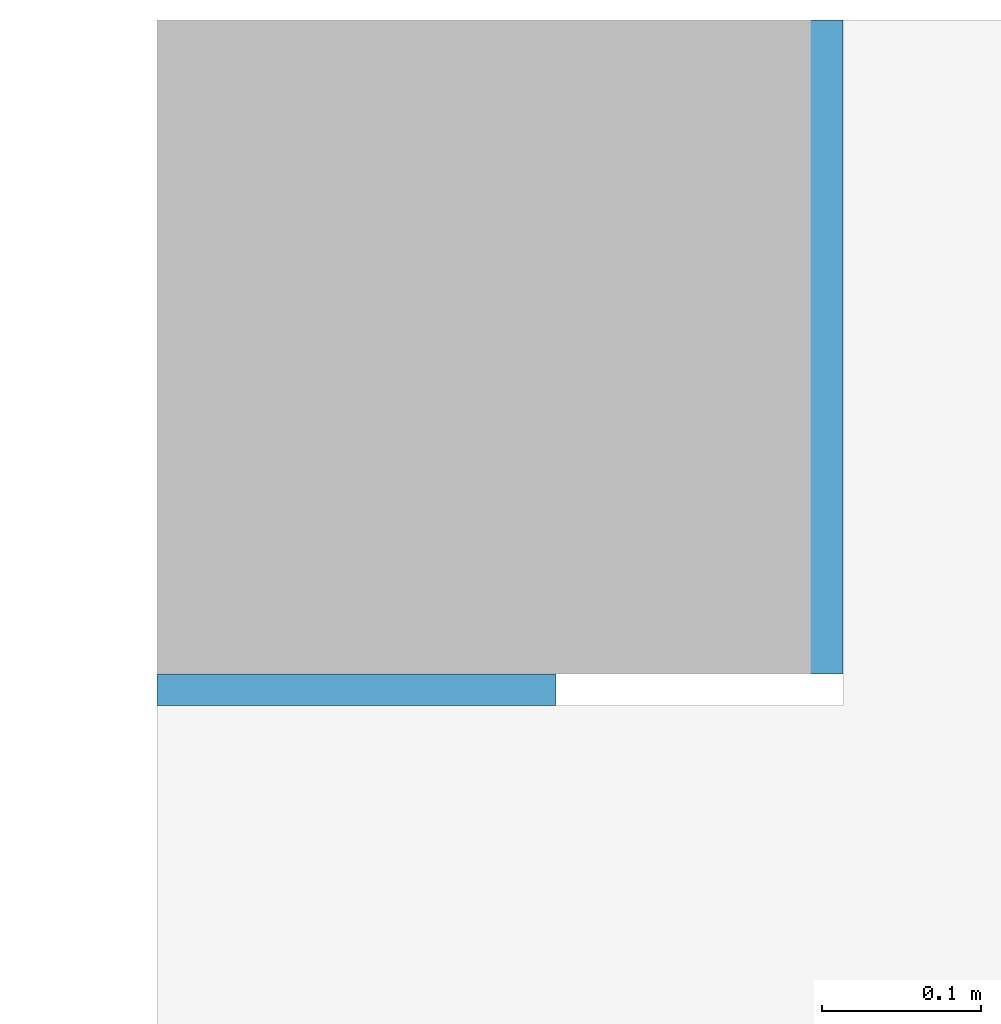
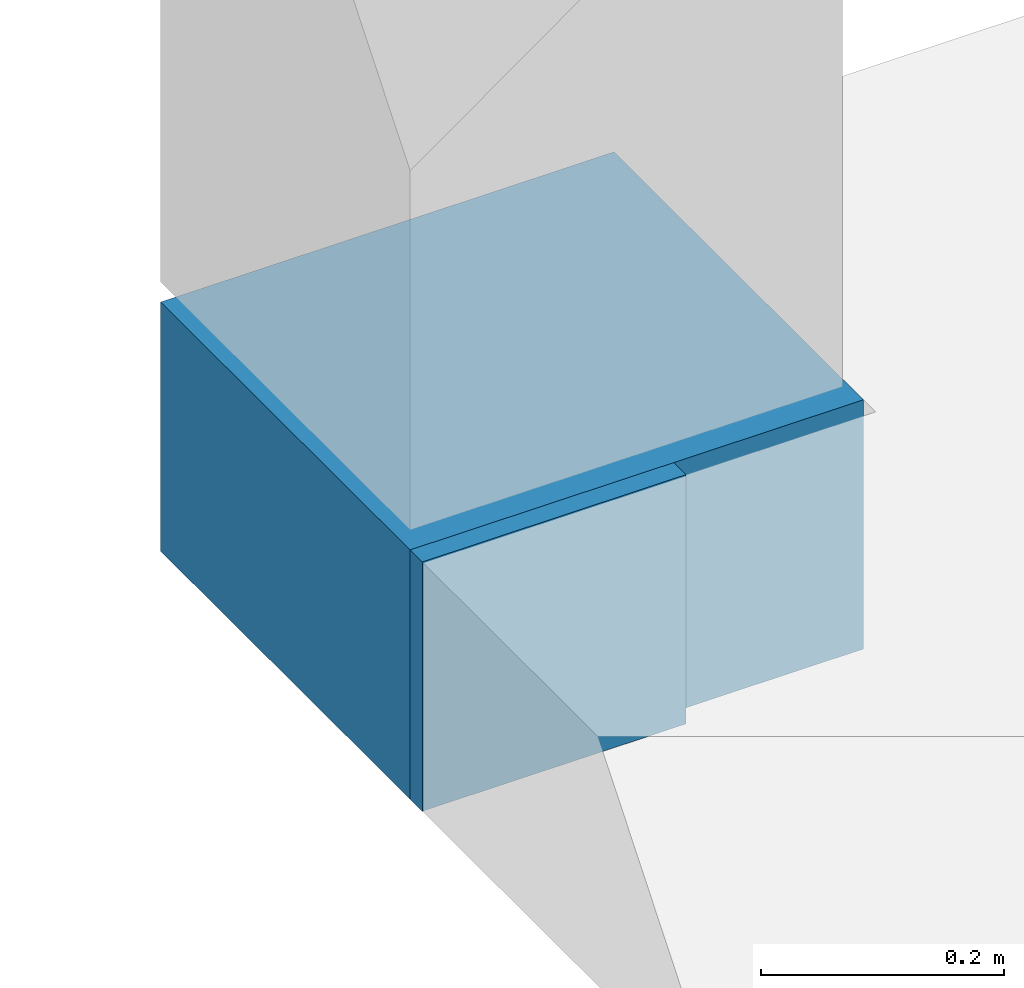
# One storey, part 6 of 14: 2 slabs.
"""IFC2X3 building model written with IfcOpenShell, lengths in millimetres."""

from ifc_helpers import new_model, entity, si_unit, converted_unit, derived_unit, direction, frame, frame_2d, origin, origin_2d_with_axis, place, context, subcontext, project, spatial, rectangle, extrude, material, layer, layer_set, layer_usage, element, save


model = new_model("IFC2X3")

# Units and contexts
model_context = context("Model", 3, precision=0.01, world=origin(), true_north=direction((6.12303176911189e-17, 1.0)))
body_context = subcontext(model_context, "Body", "Model", "MODEL_VIEW")
ifc_project = project(units=[si_unit("LENGTHUNIT", "METRE", prefix="MILLI"), si_unit("AREAUNIT", "SQUARE_METRE"), si_unit("VOLUMEUNIT", "CUBIC_METRE"), converted_unit("PLANEANGLEUNIT", "DEGREE", entity("IfcRatioMeasure", 0.0174532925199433), si_unit("PLANEANGLEUNIT", "RADIAN"), dimensions=[0, 0, 0, 0, 0, 0, 0]), si_unit("MASSUNIT", "GRAM", prefix="KILO"), derived_unit("MASSDENSITYUNIT", [(si_unit("MASSUNIT", "GRAM", prefix="KILO"), 1), (si_unit("LENGTHUNIT", "METRE"), -3)]), si_unit("TIMEUNIT", "SECOND"), si_unit("FREQUENCYUNIT", "HERTZ"), si_unit("THERMODYNAMICTEMPERATUREUNIT", "DEGREE_CELSIUS"), derived_unit("THERMALTRANSMITTANCEUNIT", [(si_unit("MASSUNIT", "GRAM", prefix="KILO"), 1), (si_unit("THERMODYNAMICTEMPERATUREUNIT", "KELVIN"), -1), (si_unit("TIMEUNIT", "SECOND"), -3)]), derived_unit("VOLUMETRICFLOWRATEUNIT", [(si_unit("LENGTHUNIT", "METRE"), 3), (si_unit("TIMEUNIT", "SECOND"), -1)]), si_unit("ELECTRICCURRENTUNIT", "AMPERE"), si_unit("ELECTRICVOLTAGEUNIT", "VOLT"), si_unit("POWERUNIT", "WATT"), si_unit("FORCEUNIT", "NEWTON", prefix="KILO"), si_unit("ILLUMINANCEUNIT", "LUX"), si_unit("LUMINOUSFLUXUNIT", "LUMEN"), si_unit("LUMINOUSINTENSITYUNIT", "CANDELA"), derived_unit("USERDEFINED", [(si_unit("MASSUNIT", "GRAM", prefix="KILO"), -1), (si_unit("LENGTHUNIT", "METRE"), -2), (si_unit("TIMEUNIT", "SECOND"), 3), (si_unit("LUMINOUSFLUXUNIT", "LUMEN"), 1)]), derived_unit("LINEARVELOCITYUNIT", [(si_unit("LENGTHUNIT", "METRE"), 1), (si_unit("TIMEUNIT", "SECOND"), -1)]), si_unit("PRESSUREUNIT", "PASCAL"), derived_unit("USERDEFINED", [(si_unit("LENGTHUNIT", "METRE"), -2), (si_unit("MASSUNIT", "GRAM", prefix="KILO"), 1), (si_unit("TIMEUNIT", "SECOND"), -2)])], contexts=[model_context])

# Site, building, storey
site_placement = place(None, origin())
site = spatial("IfcSite", under=ifc_project, at=site_placement, Name="Default", CompositionType="ELEMENT")
building_placement = place(site_placement, origin())
building = spatial("IfcBuilding", under=site, at=building_placement, Name="niet gebruiken", CompositionType="ELEMENT")
storey_placement = place(building_placement, frame((0.0, 0.0, 15570.0)))
storey = spatial("IfcBuildingStorey", under=building, at=storey_placement, Name="05 vijfde verdieping", CompositionType="ELEMENT", Elevation=15570.0)

# Slabs
ifc_material = material(Name="NLRS_f2_beton ihwg")
ifc_layer = layer(ifc_material, 250.0)
ifc_layer_set = layer_set([ifc_layer], Name="Floor:NLRS_23.21_FL_beton ihwg d=250_gen")
ifc_layer_usage_1 = layer_usage(ifc_layer_set, "AXIS3", "POSITIVE", 0.0)
slab_1_placement = place(storey_placement, origin())
element("IfcSlab", 1, at=slab_1_placement, inside=storey, material=ifc_layer_usage_1, Name="Floor:NLRS_23.21_FL_beton ihwg d=250_gen", ObjectType="Floor:NLRS_23.21_FL_beton ihwg d=250_gen", PredefinedType="FLOOR", context=body_context, shape_type="SweptSolid", body=[
    extrude(rectangle(XDim=20.0000000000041, YDim=249.999999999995, at=frame_2d((-4.33164615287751e-12, 0.0), x_axis=(1.0, 0.0))), frame((32425.0, 52836.0, -90.0), z_axis=(0.0, 0.0, -1.0), x_axis=(0.0, 1.0, 0.0)), (0.0, 0.0, 1.0), 249.999999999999),
])
ifc_layer_usage_2 = layer_usage(ifc_layer_set, "AXIS3", "POSITIVE", 0.0)
slab_2_placement = place(storey_placement, origin())
element("IfcSlab", 2, at=slab_2_placement, inside=storey, material=ifc_layer_usage_2, Name="Floor:NLRS_23.21_FL_beton ihwg d=250_gen", ObjectType="Floor:NLRS_23.21_FL_beton ihwg d=250_gen", PredefinedType="FLOOR", context=body_context, shape_type="SweptSolid", body=[
    extrude(rectangle(XDim=409.999999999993, YDim=430.000032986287, at=origin_2d_with_axis()), frame((32515.0, 53051.0, -90.0), z_axis=(0.0, 0.0, -1.0), x_axis=(0.0, 1.0, 0.0)), (0.0, 0.0, 1.0), 249.999999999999),
])

save(model, "model.ifc")
